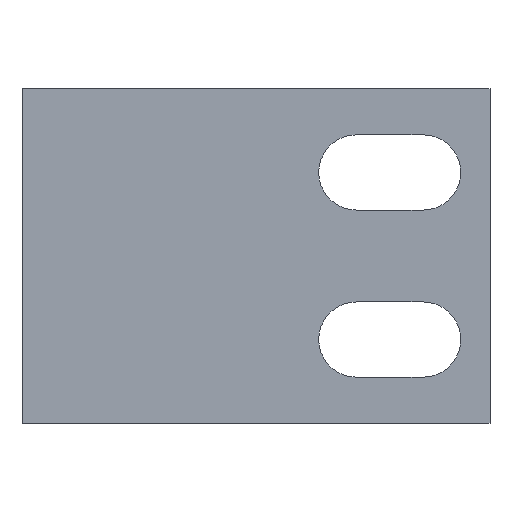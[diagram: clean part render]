
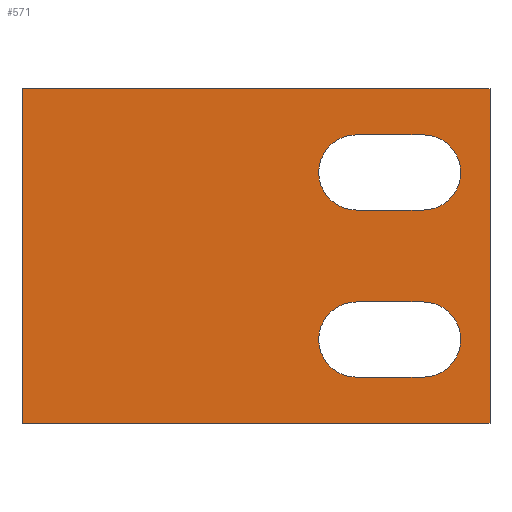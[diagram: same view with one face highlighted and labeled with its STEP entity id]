
A CAD part, front view. The second image highlights one B-rep face of the part: STEP entity #571.
In plain terms, the highlighted planar face has unit normal (0, -1, 0).
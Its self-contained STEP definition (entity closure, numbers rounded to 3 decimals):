
#39=AXIS2_PLACEMENT_3D('Circle Axis2P3D',#37,#38,$) ;
#202=AXIS2_PLACEMENT_3D('Circle Axis2P3D',#200,#201,$) ;
#409=AXIS2_PLACEMENT_3D('Circle Axis2P3D',#407,#408,$) ;
#464=AXIS2_PLACEMENT_3D('Circle Axis2P3D',#462,#463,$) ;
#546=AXIS2_PLACEMENT_3D('Plane Axis2P3D',#543,#544,#545) ;
#37=CARTESIAN_POINT('Axis2P3D Location',(24.,0.,-5.)) ;
#41=CARTESIAN_POINT('Vertex',(24.,0.,-2.75)) ;
#43=CARTESIAN_POINT('Vertex',(24.,0.,-7.25)) ;
#88=CARTESIAN_POINT('Vertex',(20.,0.,-7.25)) ;
#91=CARTESIAN_POINT('Line Origine',(22.,0.,-7.25)) ;
#200=CARTESIAN_POINT('Axis2P3D Location',(20.,0.,-5.)) ;
#204=CARTESIAN_POINT('Vertex',(20.,0.,-2.75)) ;
#261=CARTESIAN_POINT('Vertex',(0.,0.,-10.)) ;
#287=CARTESIAN_POINT('Vertex',(28.,0.,-10.)) ;
#290=CARTESIAN_POINT('Line Origine',(14.,0.,-10.)) ;
#342=CARTESIAN_POINT('Line Origine',(0.,0.,0.)) ;
#346=CARTESIAN_POINT('Vertex',(0.,0.,10.)) ;
#407=CARTESIAN_POINT('Axis2P3D Location',(20.,0.,5.)) ;
#411=CARTESIAN_POINT('Vertex',(20.,0.,2.75)) ;
#413=CARTESIAN_POINT('Vertex',(20.,0.,7.25)) ;
#438=CARTESIAN_POINT('Line Origine',(22.,0.,2.75)) ;
#442=CARTESIAN_POINT('Vertex',(24.,0.,2.75)) ;
#462=CARTESIAN_POINT('Axis2P3D Location',(24.,0.,5.)) ;
#466=CARTESIAN_POINT('Vertex',(24.,0.,7.25)) ;
#486=CARTESIAN_POINT('Line Origine',(22.,0.,7.25)) ;
#503=CARTESIAN_POINT('Line Origine',(28.,0.,0.)) ;
#507=CARTESIAN_POINT('Vertex',(28.,0.,10.)) ;
#527=CARTESIAN_POINT('Line Origine',(14.,0.,10.)) ;
#543=CARTESIAN_POINT('Axis2P3D Location',(28.,0.,0.)) ;
#554=CARTESIAN_POINT('Line Origine',(22.,0.,-2.75)) ;
#38=DIRECTION('Axis2P3D Direction',(0.,1.,-0.)) ;
#92=DIRECTION('Vector Direction',(-1.,0.,0.)) ;
#201=DIRECTION('Axis2P3D Direction',(0.,1.,-0.)) ;
#291=DIRECTION('Vector Direction',(-1.,0.,0.)) ;
#343=DIRECTION('Vector Direction',(0.,0.,1.)) ;
#408=DIRECTION('Axis2P3D Direction',(0.,1.,-0.)) ;
#439=DIRECTION('Vector Direction',(1.,0.,0.)) ;
#463=DIRECTION('Axis2P3D Direction',(0.,1.,-0.)) ;
#487=DIRECTION('Vector Direction',(-1.,0.,0.)) ;
#504=DIRECTION('Vector Direction',(0.,0.,1.)) ;
#528=DIRECTION('Vector Direction',(-1.,0.,0.)) ;
#544=DIRECTION('Axis2P3D Direction',(0.,1.,-0.)) ;
#545=DIRECTION('Axis2P3D XDirection',(-1.,0.,0.)) ;
#555=DIRECTION('Vector Direction',(1.,0.,0.)) ;
#93=VECTOR('Line Direction',#92,1.) ;
#292=VECTOR('Line Direction',#291,1.) ;
#344=VECTOR('Line Direction',#343,1.) ;
#440=VECTOR('Line Direction',#439,1.) ;
#488=VECTOR('Line Direction',#487,1.) ;
#505=VECTOR('Line Direction',#504,1.) ;
#529=VECTOR('Line Direction',#528,1.) ;
#556=VECTOR('Line Direction',#555,1.) ;
#549=ORIENTED_EDGE('',*,*,#348,.F.) ;
#550=ORIENTED_EDGE('',*,*,#294,.T.) ;
#551=ORIENTED_EDGE('',*,*,#509,.T.) ;
#552=ORIENTED_EDGE('',*,*,#531,.F.) ;
#560=ORIENTED_EDGE('',*,*,#45,.T.) ;
#561=ORIENTED_EDGE('',*,*,#95,.T.) ;
#562=ORIENTED_EDGE('',*,*,#206,.T.) ;
#563=ORIENTED_EDGE('',*,*,#558,.T.) ;
#566=ORIENTED_EDGE('',*,*,#490,.F.) ;
#567=ORIENTED_EDGE('',*,*,#468,.T.) ;
#568=ORIENTED_EDGE('',*,*,#444,.F.) ;
#569=ORIENTED_EDGE('',*,*,#415,.T.) ;
#564=FACE_BOUND('',#559,.T.) ;
#570=FACE_BOUND('',#565,.T.) ;
#571=ADVANCED_FACE('\X2\96F64EF651E04F554F53\X0\',(#553,#564,#570),#547,.F.) ;
#40=CIRCLE('generated circle',#39,2.25) ;
#203=CIRCLE('generated circle',#202,2.25) ;
#410=CIRCLE('generated circle',#409,2.25) ;
#465=CIRCLE('generated circle',#464,2.25) ;
#45=EDGE_CURVE('',#42,#44,#40,.T.) ;
#95=EDGE_CURVE('',#44,#89,#94,.T.) ;
#206=EDGE_CURVE('',#89,#205,#203,.T.) ;
#294=EDGE_CURVE('',#262,#288,#293,.F.) ;
#348=EDGE_CURVE('',#262,#347,#345,.T.) ;
#415=EDGE_CURVE('',#412,#414,#410,.T.) ;
#444=EDGE_CURVE('',#412,#443,#441,.T.) ;
#468=EDGE_CURVE('',#467,#443,#465,.T.) ;
#490=EDGE_CURVE('',#467,#414,#489,.T.) ;
#509=EDGE_CURVE('',#288,#508,#506,.T.) ;
#531=EDGE_CURVE('',#347,#508,#530,.F.) ;
#558=EDGE_CURVE('',#205,#42,#557,.T.) ;
#548=EDGE_LOOP('',(#549,#550,#551,#552)) ;
#559=EDGE_LOOP('',(#560,#561,#562,#563)) ;
#565=EDGE_LOOP('',(#566,#567,#568,#569)) ;
#553=FACE_OUTER_BOUND('',#548,.T.) ;
#94=LINE('Line',#91,#93) ;
#293=LINE('Line',#290,#292) ;
#345=LINE('Line',#342,#344) ;
#441=LINE('Line',#438,#440) ;
#489=LINE('Line',#486,#488) ;
#506=LINE('Line',#503,#505) ;
#530=LINE('Line',#527,#529) ;
#557=LINE('Line',#554,#556) ;
#547=PLANE('Plane',#546) ;
#42=VERTEX_POINT('',#41) ;
#44=VERTEX_POINT('',#43) ;
#89=VERTEX_POINT('',#88) ;
#205=VERTEX_POINT('',#204) ;
#262=VERTEX_POINT('',#261) ;
#288=VERTEX_POINT('',#287) ;
#347=VERTEX_POINT('',#346) ;
#412=VERTEX_POINT('',#411) ;
#414=VERTEX_POINT('',#413) ;
#443=VERTEX_POINT('',#442) ;
#467=VERTEX_POINT('',#466) ;
#508=VERTEX_POINT('',#507) ;
